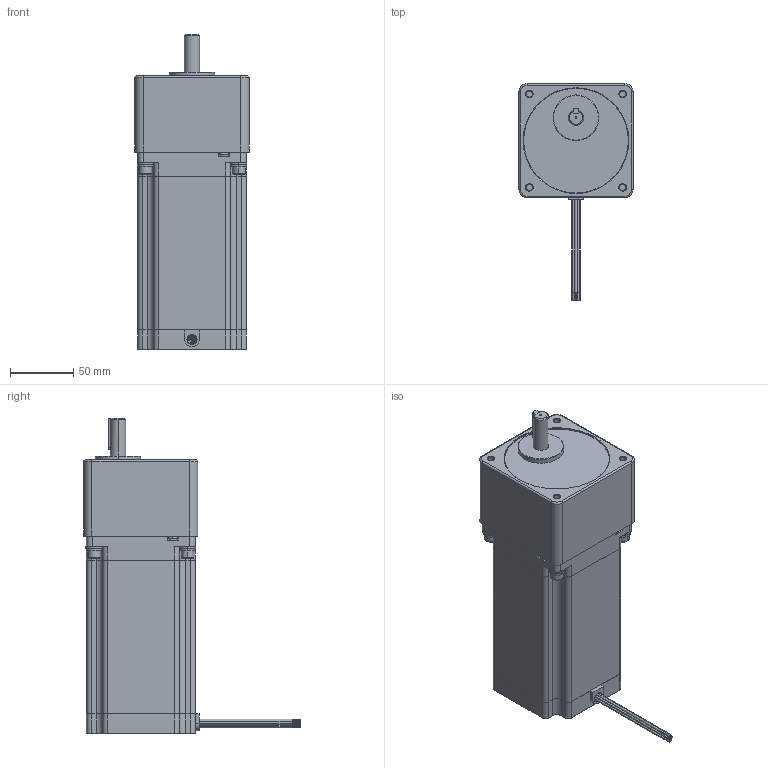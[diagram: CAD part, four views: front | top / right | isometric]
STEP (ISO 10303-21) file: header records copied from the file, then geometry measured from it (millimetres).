
FILE_DESCRIPTION (( 'STEP AP214' ), '1' );
FILE_NAME ('34YSG308S-LW8-R50.STEP', '2010-06-18T16:51:00', ( 'Tim Raines' ), ( 'Anaheim Automation' ), 'SwSTEP 2.0', 'SolidWorks 2010', '' );
FILE_SCHEMA (( 'AUTOMOTIVE_DESIGN' ));
Length unit declared in the file: millimetre
Products named in the file (6): Lock Washer Spring Regular_AI_Regular LW 0.25; Socket Head Cap Screw_AM_B18.3.1M - 6 x 1.0 x 20 Hex SHCS -- 20NHX; 34YSG308S-LW8-R50; Flat Washer Narrow_AM_B18.22M - Plain washer, 6 mm, narrow; 34SG Series_34SG2; 34YSG Motor_34YSG308S-LW8
Assembly tree (14 placements, depth 2):
  34YSG308S-LW8-R50
    Socket Head Cap Screw_AM_B18.3.1M - 6 x 1.0 x 20 Hex SHCS -- 20NHX  x4
    Lock Washer Spring Regular_AI_Regular LW 0.25  x4
    Flat Washer Narrow_AM_B18.22M - Plain washer, 6 mm, narrow  x4
    34SG Series_34SG2
    34YSG Motor_34YSG308S-LW8
Bounding box: 89.92 x 170.43 x 248.95 mm (x, y, z)
Volume: 1521479.5 mm3; surface area: 121291.3 mm2
Topology: 14 solids, 14 shells, 575 faces, 1363 edges, 848 vertices
Faces by surface type: plane 272, cylinder 190, cone 93, torus 20
Entity records: 18465 total; most frequent: CARTESIAN_POINT 2581, DIRECTION 2415, ORIENTED_EDGE 2214, EDGE_CURVE 1107, AXIS2_PLACEMENT_3D 895, VERTEX_POINT 701, VECTOR 625, LINE 625
